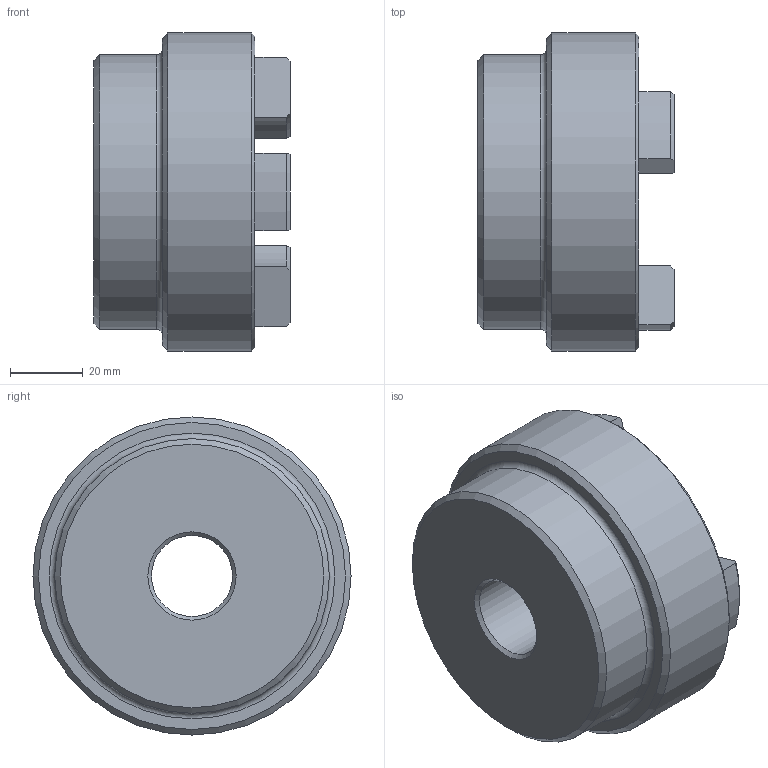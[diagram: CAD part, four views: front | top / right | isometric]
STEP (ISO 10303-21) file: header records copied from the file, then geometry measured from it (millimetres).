
FILE_DESCRIPTION (( 'STEP AP203' ), '1' );
FILE_NAME ('RC3.step', '2024-07-24T12:57:45', ( 'Adlan' ), ( '' ), 'SwSTEP 2.0', 'SolidWorks 2013', '' );
FILE_SCHEMA (( 'CONFIG_CONTROL_DESIGN' ));
Length unit declared in the file: inch
Products named in the file (1): RC3
Bounding box: 53.85 x 87.38 x 87.38 mm (x, y, z)
Volume: 183916.3 mm3; surface area: 29602.3 mm2
Topology: 1 solids, 1 shells, 60 faces, 146 edges, 90 vertices
Faces by surface type: cylinder 24, plane 13, torus 13, cone 10
Full cylindrical faces by diameter (mm): 22.233 x1, 75.438 x1, 87.376 x1
Entity records: 1841 total; most frequent: CARTESIAN_POINT 341, DIRECTION 324, ORIENTED_EDGE 274, EDGE_CURVE 137, AXIS2_PLACEMENT_3D 132, VERTEX_POINT 89, EDGE_LOOP 72, CIRCLE 71
